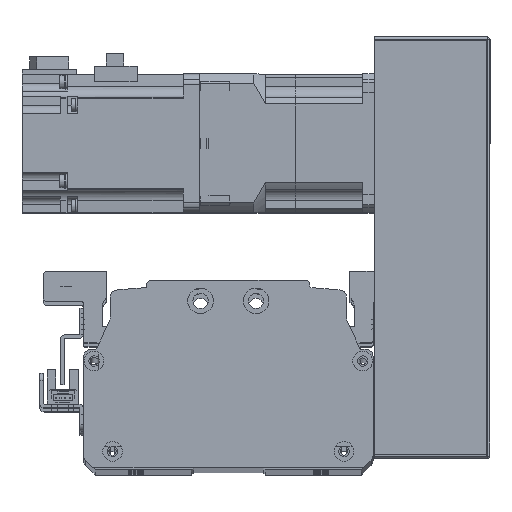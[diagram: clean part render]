
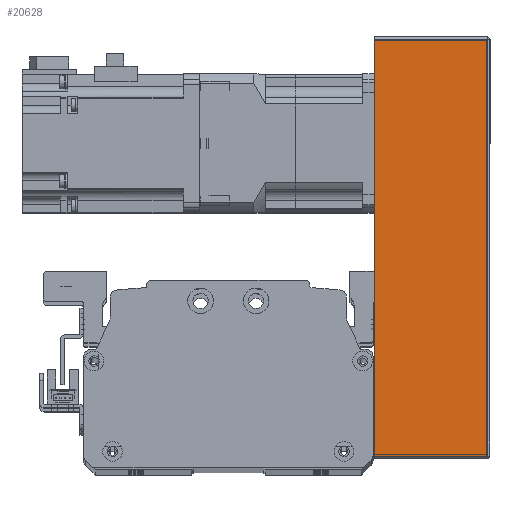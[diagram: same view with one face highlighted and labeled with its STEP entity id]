
A CAD part, top view. The second image highlights one B-rep face of the part: STEP entity #20628.
In plain terms, the highlighted planar face has unit normal (0, 0, 1) as drawn and (0, -1, 0) by its records, which use the part's own axes.
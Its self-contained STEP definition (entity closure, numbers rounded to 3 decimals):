
#563=PLANE('',#22639);
#1778=LINE('',#33636,#3402);
#1792=LINE('',#33688,#3416);
#1794=LINE('',#33696,#3418);
#1795=LINE('',#33698,#3419);
#3402=VECTOR('',#27337,10.);
#3416=VECTOR('',#27397,10.);
#3418=VECTOR('',#27411,10.);
#3419=VECTOR('',#27414,10.);
#5810=FACE_OUTER_BOUND('',#7282,.T.);
#7282=EDGE_LOOP('',(#17150,#17151,#17152,#17153));
#10166=VERTEX_POINT('',#33633);
#10167=VERTEX_POINT('',#33635);
#10181=VERTEX_POINT('',#33683);
#10182=VERTEX_POINT('',#33686);
#12618=EDGE_CURVE('',#10167,#10166,#1778,.T.);
#12646=EDGE_CURVE('',#10181,#10182,#1792,.T.);
#12650=EDGE_CURVE('',#10182,#10167,#1794,.T.);
#12651=EDGE_CURVE('',#10166,#10181,#1795,.T.);
#17150=ORIENTED_EDGE('',*,*,#12646,.T.);
#17151=ORIENTED_EDGE('',*,*,#12650,.T.);
#17152=ORIENTED_EDGE('',*,*,#12618,.T.);
#17153=ORIENTED_EDGE('',*,*,#12651,.T.);
#20628=ADVANCED_FACE('',(#5810),#563,.F.);
#22639=AXIS2_PLACEMENT_3D('',#33697,#27412,#27413);
#27337=DIRECTION('',(1.,0.,0.));
#27397=DIRECTION('',(-1.,0.,0.));
#27411=DIRECTION('',(0.,0.,-1.));
#27412=DIRECTION('center_axis',(0.,1.,0.));
#27413=DIRECTION('ref_axis',(1.,0.,0.));
#27414=DIRECTION('',(0.,0.,1.));
#33633=CARTESIAN_POINT('',(90.,-38.,-25.));
#33635=CARTESIAN_POINT('',(-90.,-38.,-25.));
#33636=CARTESIAN_POINT('',(91.,-38.,-25.));
#33683=CARTESIAN_POINT('',(90.,-38.,24.));
#33686=CARTESIAN_POINT('',(-90.,-38.,24.));
#33688=CARTESIAN_POINT('',(-45.5,-38.,24.));
#33696=CARTESIAN_POINT('',(-90.,-38.,0.));
#33697=CARTESIAN_POINT('Origin',(-91.,-38.,0.));
#33698=CARTESIAN_POINT('',(90.,-38.,0.));
